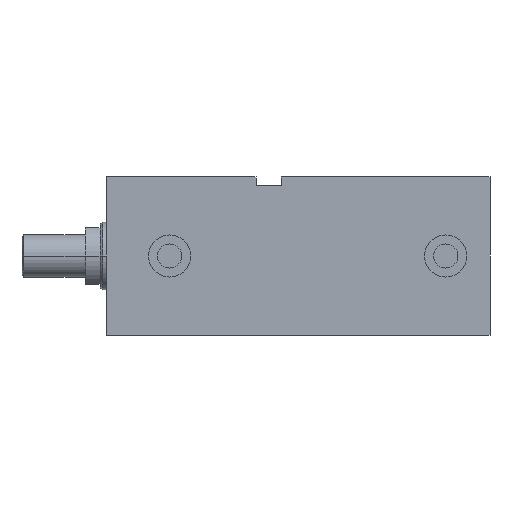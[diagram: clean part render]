
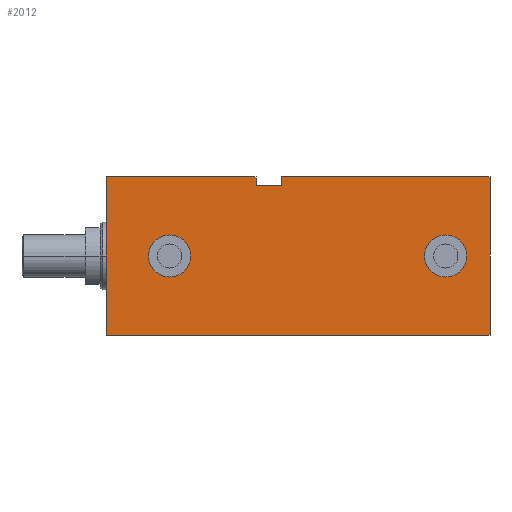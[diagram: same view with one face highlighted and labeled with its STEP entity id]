
A CAD part, left-side view. The second image highlights one B-rep face of the part: STEP entity #2012.
In plain terms, the highlighted planar face has unit normal (-1, 0, 0).
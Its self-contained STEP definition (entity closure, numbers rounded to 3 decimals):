
#48 = AXIS2_PLACEMENT_3D ( 'NONE', #2717, #2714, #2849 ) ;
#73 = CARTESIAN_POINT ( 'NONE',  ( -50., 99., 33.5 ) ) ;
#110 = CARTESIAN_POINT ( 'NONE',  ( -50., 152., -10. ) ) ;
#200 = CARTESIAN_POINT ( 'NONE',  ( -50., 0., -37.5 ) ) ;
#257 = CARTESIAN_POINT ( 'NONE',  ( -50., 182., 37.5 ) ) ;
#329 = EDGE_CURVE ( 'NONE', #2594, #392, #1218, .T. ) ;
#392 = VERTEX_POINT ( 'NONE', #1244 ) ;
#537 = CIRCLE ( 'NONE', #1947, 10. ) ;
#618 = FACE_BOUND ( 'NONE', #1739, .T. ) ;
#627 = FACE_BOUND ( 'NONE', #1941, .T. ) ;
#641 = FACE_OUTER_BOUND ( 'NONE', #1713, .T. ) ;
#647 = EDGE_CURVE ( 'NONE', #2284, #2572, #1024, .T. ) ;
#688 = DIRECTION ( 'NONE',  ( -1., 0., 0. ) ) ;
#695 = CARTESIAN_POINT ( 'NONE',  ( -50., 182., -37.5 ) ) ;
#714 = EDGE_CURVE ( 'NONE', #1870, #392, #994, .T. ) ;
#719 = CIRCLE ( 'NONE', #1511, 10. ) ;
#765 = CARTESIAN_POINT ( 'NONE',  ( -50., 152., 0. ) ) ;
#789 = EDGE_CURVE ( 'NONE', #2284, #2594, #946, .T. ) ;
#796 = EDGE_CURVE ( 'NONE', #2943, #1870, #941, .T. ) ;
#805 = DIRECTION ( 'NONE',  ( 0., 0., 1. ) ) ;
#818 = EDGE_CURVE ( 'NONE', #1702, #2943, #935, .T. ) ;
#822 = EDGE_CURVE ( 'NONE', #1702, #1686, #924, .T. ) ;
#836 = EDGE_CURVE ( 'NONE', #2572, #1686, #910, .T. ) ;
#839 = EDGE_CURVE ( 'NONE', #2034, #1580, #913, .T. ) ;
#851 = EDGE_CURVE ( 'NONE', #2231, #2764, #918, .T. ) ;
#907 = VECTOR ( 'NONE', #1859, 1000. ) ;
#910 = LINE ( 'NONE', #1809, #907 ) ;
#913 = CIRCLE ( 'NONE', #2688, 10. ) ;
#918 = CIRCLE ( 'NONE', #2837, 10. ) ;
#919 = VECTOR ( 'NONE', #1849, 1000. ) ;
#922 = VECTOR ( 'NONE', #1831, 1000. ) ;
#924 = LINE ( 'NONE', #1841, #919 ) ;
#934 = VECTOR ( 'NONE', #1816, 1000. ) ;
#935 = LINE ( 'NONE', #1771, #922 ) ;
#939 = VECTOR ( 'NONE', #1806, 1000. ) ;
#941 = LINE ( 'NONE', #1807, #934 ) ;
#946 = LINE ( 'NONE', #1800, #939 ) ;
#983 = VECTOR ( 'NONE', #1700, 1000. ) ;
#994 = LINE ( 'NONE', #1678, #983 ) ;
#1023 = VECTOR ( 'NONE', #1601, 1000. ) ;
#1024 = LINE ( 'NONE', #1566, #1023 ) ;
#1140 = DIRECTION ( 'NONE',  ( 0., 0., 1. ) ) ;
#1167 = CARTESIAN_POINT ( 'NONE',  ( -50., 0., -37.5 ) ) ;
#1207 = VECTOR ( 'NONE', #1140, 1000. ) ;
#1218 = LINE ( 'NONE', #1167, #1207 ) ;
#1244 = CARTESIAN_POINT ( 'NONE',  ( -50., 0., 37.5 ) ) ;
#1463 = EDGE_CURVE ( 'NONE', #1580, #2034, #719, .T. ) ;
#1511 = AXIS2_PLACEMENT_3D ( 'NONE', #2383, #2386, #2391 ) ;
#1566 = CARTESIAN_POINT ( 'NONE',  ( -50., 182., -37.5 ) ) ;
#1580 = VERTEX_POINT ( 'NONE', #2416 ) ;
#1601 = DIRECTION ( 'NONE',  ( 0., 0., 1. ) ) ;
#1678 = CARTESIAN_POINT ( 'NONE',  ( -50., 82., 37.5 ) ) ;
#1686 = VERTEX_POINT ( 'NONE', #2505 ) ;
#1700 = DIRECTION ( 'NONE',  ( 0., -1., 0. ) ) ;
#1702 = VERTEX_POINT ( 'NONE', #2425 ) ;
#1713 = EDGE_LOOP ( 'NONE', ( #2473, #2467, #2464, #2453, #2450, #2448, #2446, #2444 ) ) ;
#1739 = EDGE_LOOP ( 'NONE', ( #2442, #2437 ) ) ;
#1771 = CARTESIAN_POINT ( 'NONE',  ( -50., 111., 33.5 ) ) ;
#1800 = CARTESIAN_POINT ( 'NONE',  ( -50., 82., -37.5 ) ) ;
#1806 = DIRECTION ( 'NONE',  ( 0., -1., 0. ) ) ;
#1807 = CARTESIAN_POINT ( 'NONE',  ( -50., 99., 33.5 ) ) ;
#1809 = CARTESIAN_POINT ( 'NONE',  ( -50., 82., 37.5 ) ) ;
#1816 = DIRECTION ( 'NONE',  ( 0., 0., 1. ) ) ;
#1831 = DIRECTION ( 'NONE',  ( 0., -1., 0. ) ) ;
#1841 = CARTESIAN_POINT ( 'NONE',  ( -50., 111., 33.5 ) ) ;
#1849 = DIRECTION ( 'NONE',  ( 0., 0., 1. ) ) ;
#1859 = DIRECTION ( 'NONE',  ( 0., -1., 0. ) ) ;
#1870 = VERTEX_POINT ( 'NONE', #2619 ) ;
#1873 = CARTESIAN_POINT ( 'NONE',  ( -50., 21., 0. ) ) ;
#1874 = DIRECTION ( 'NONE',  ( -1., 0., 0. ) ) ;
#1876 = DIRECTION ( 'NONE',  ( 0., 0., 1. ) ) ;
#1882 = CARTESIAN_POINT ( 'NONE',  ( -50., 152., 0. ) ) ;
#1885 = DIRECTION ( 'NONE',  ( -1., 0., 0. ) ) ;
#1887 = DIRECTION ( 'NONE',  ( 0., 0., 1. ) ) ;
#1941 = EDGE_LOOP ( 'NONE', ( #2433, #2432 ) ) ;
#1947 = AXIS2_PLACEMENT_3D ( 'NONE', #765, #688, #805 ) ;
#2012 = ADVANCED_FACE ( 'NONE', ( #641, #618, #627 ), #2727, .F. ) ;
#2034 = VERTEX_POINT ( 'NONE', #2795 ) ;
#2121 = EDGE_CURVE ( 'NONE', #2764, #2231, #537, .T. ) ;
#2231 = VERTEX_POINT ( 'NONE', #2351 ) ;
#2284 = VERTEX_POINT ( 'NONE', #695 ) ;
#2351 = CARTESIAN_POINT ( 'NONE',  ( -50., 152., 10. ) ) ;
#2383 = CARTESIAN_POINT ( 'NONE',  ( -50., 21., 0. ) ) ;
#2386 = DIRECTION ( 'NONE',  ( -1., 0., 0. ) ) ;
#2391 = DIRECTION ( 'NONE',  ( 0., 0., 1. ) ) ;
#2416 = CARTESIAN_POINT ( 'NONE',  ( -50., 21., -10. ) ) ;
#2425 = CARTESIAN_POINT ( 'NONE',  ( -50., 111., 33.5 ) ) ;
#2432 = ORIENTED_EDGE ( 'NONE', *, *, #2121, .F. ) ;
#2433 = ORIENTED_EDGE ( 'NONE', *, *, #851, .F. ) ;
#2437 = ORIENTED_EDGE ( 'NONE', *, *, #1463, .F. ) ;
#2442 = ORIENTED_EDGE ( 'NONE', *, *, #839, .F. ) ;
#2444 = ORIENTED_EDGE ( 'NONE', *, *, #329, .T. ) ;
#2446 = ORIENTED_EDGE ( 'NONE', *, *, #789, .T. ) ;
#2448 = ORIENTED_EDGE ( 'NONE', *, *, #647, .F. ) ;
#2450 = ORIENTED_EDGE ( 'NONE', *, *, #836, .F. ) ;
#2453 = ORIENTED_EDGE ( 'NONE', *, *, #822, .T. ) ;
#2464 = ORIENTED_EDGE ( 'NONE', *, *, #818, .F. ) ;
#2467 = ORIENTED_EDGE ( 'NONE', *, *, #796, .F. ) ;
#2473 = ORIENTED_EDGE ( 'NONE', *, *, #714, .F. ) ;
#2505 = CARTESIAN_POINT ( 'NONE',  ( -50., 111., 37.5 ) ) ;
#2572 = VERTEX_POINT ( 'NONE', #257 ) ;
#2594 = VERTEX_POINT ( 'NONE', #200 ) ;
#2619 = CARTESIAN_POINT ( 'NONE',  ( -50., 99., 37.5 ) ) ;
#2688 = AXIS2_PLACEMENT_3D ( 'NONE', #1873, #1874, #1876 ) ;
#2714 = DIRECTION ( 'NONE',  ( 1., 0., 0. ) ) ;
#2717 = CARTESIAN_POINT ( 'NONE',  ( -50., 82., -37.5 ) ) ;
#2727 = PLANE ( 'NONE',  #48 ) ;
#2764 = VERTEX_POINT ( 'NONE', #110 ) ;
#2795 = CARTESIAN_POINT ( 'NONE',  ( -50., 21., 10. ) ) ;
#2837 = AXIS2_PLACEMENT_3D ( 'NONE', #1882, #1885, #1887 ) ;
#2849 = DIRECTION ( 'NONE',  ( 0., 0., -1. ) ) ;
#2943 = VERTEX_POINT ( 'NONE', #73 ) ;
